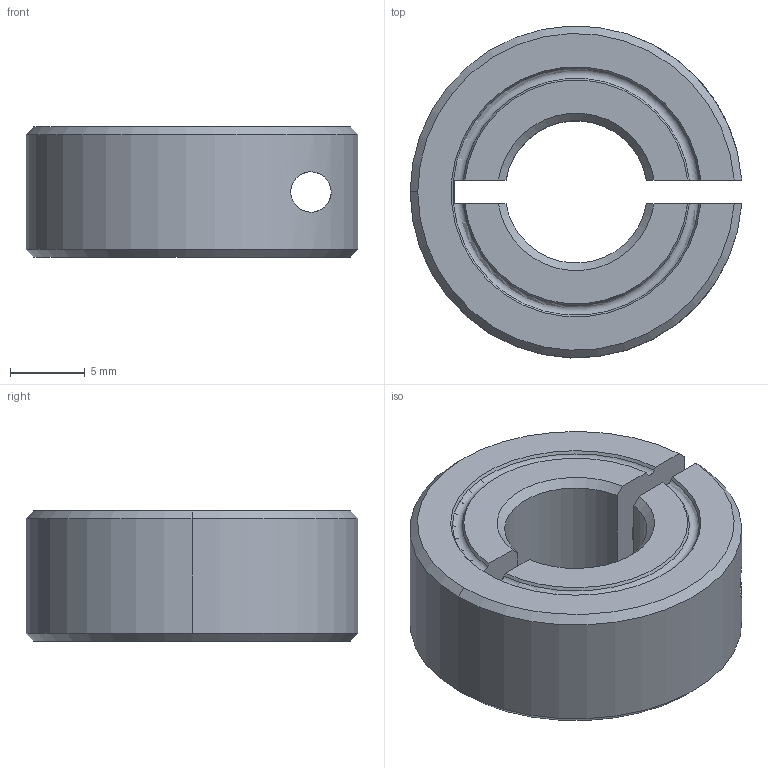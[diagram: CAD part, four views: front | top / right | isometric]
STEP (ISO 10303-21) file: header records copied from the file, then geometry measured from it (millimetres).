
FILE_DESCRIPTION (( 'STEP AP214' ), '1' );
FILE_NAME ('Ruland_CL Collars A_CL-6-F.step', '2025-12-23T15:53:04', ( '' ), ( '' ), 'SwSTEP 2.0', 'SolidWorks 2026', '' );
FILE_SCHEMA (( 'AUTOMOTIVE_DESIGN' ));
Length unit declared in the file: millimetre
Products named in the file (1): Ruland_CL Collars A_CL-6-F
Bounding box: 22.2 x 22.21 x 8.71 mm (x, y, z)
Volume: 2396.3 mm3; surface area: 1681.9 mm2
Topology: 1 solids, 1 shells, 32 faces, 86 edges, 57 vertices
Faces by surface type: cylinder 11, cone 10, plane 10, torus 1
Entity records: 1161 total; most frequent: CARTESIAN_POINT 338, ORIENTED_EDGE 172, DIRECTION 160, EDGE_CURVE 86, AXIS2_PLACEMENT_3D 63, VERTEX_POINT 57, EDGE_LOOP 37, LINE 34
